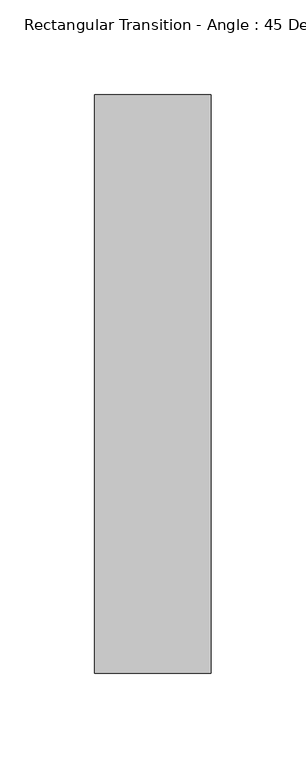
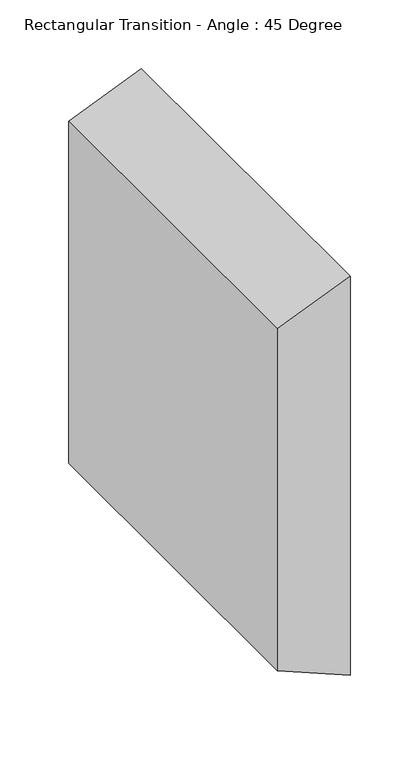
"""IFC4 building model written with IfcOpenShell, lengths in millimetres: duct fitting geometry, Rectangular Transition - Angle : 45 Degree."""

from ifc_helpers import new_model, si_unit, frame, origin, place, context, project, spatial, polyline, outline, extrude, source, transform, mapped, element, save


def rectangular_transition_angle_45_degree_68762448(model_context):
    return source(origin(), model_context, "Body", "SweptSolid", [
        extrude(outline(polyline([(152.4, 0.0), (-152.4, 0.0), (-177.8, 61.3210245), (177.8, 61.3210245), (152.4, 0.0)])), frame((0.0, -152.4, 0.0), z_axis=(0.0, 1.0, 0.0), x_axis=(0.0, 0.0, 1.0)), (0.0, 0.0, 1.0), 304.8),
    ])


if __name__ == "__main__":
    model = new_model("IFC4")
    model_context = context("Model", 3, world=origin())
    ifc_project = project(units=[si_unit("LENGTHUNIT", "METRE", prefix="MILLI")], contexts=[model_context])
    site = spatial("IfcSite", under=ifc_project)
    building = spatial("IfcBuilding", under=site)
    placement = place(None, origin())
    rectangular_transition_angle_45_degree_shape = rectangular_transition_angle_45_degree_68762448(model_context)
    element("IfcDuctFitting", 1, ObjectType="Rectangular Transition - Angle : 45 Degree", at=placement, inside=building, context=model_context, shape_type="MappedRepresentation", body=[
        mapped(rectangular_transition_angle_45_degree_shape, transform((0.0, 0.0, 0.0), x_axis=(1.0, 0.0, 0.0), y_axis=(0.0, 1.0, 0.0), z_axis=(0.0, 0.0, 1.0))),
    ])
    save(model, "model.ifc")
